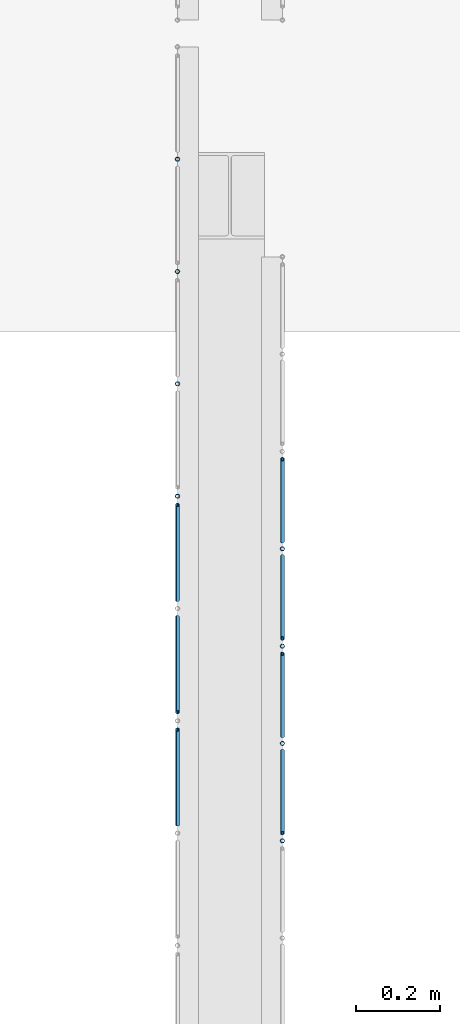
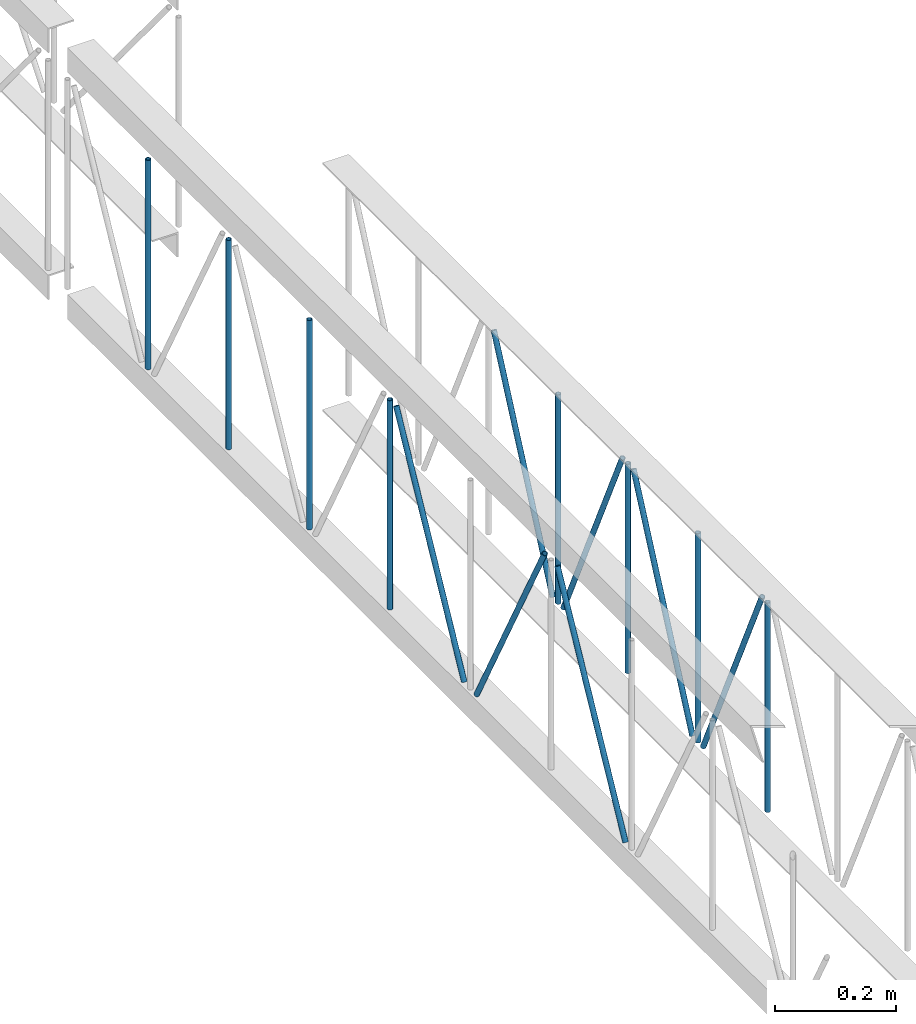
# One storey, part 16 of 153: 15 members, 2 elements without a shape of their own.
"""IFC4 building model written with IfcOpenShell, lengths in metres."""

from ifc_helpers import new_model, entity, si_unit, converted_unit, derived_unit, direction, frame, origin, place, context, subcontext, project, spatial, arc, indexed_curve, outline, extrude, source, transform, mapped, material, type_object, type_shapes, element, aggregate, save


model = new_model("IFC4")

# Units and contexts
model_context = context("Model", 3, precision=1e-05, world=origin(), true_north=direction((6.123031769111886e-17, 1.0)))
body_context = subcontext(model_context, "Body", "Model", "MODEL_VIEW")
ifc_project = project(units=[si_unit("LENGTHUNIT", "METRE"), si_unit("AREAUNIT", "SQUARE_METRE"), si_unit("VOLUMEUNIT", "CUBIC_METRE"), converted_unit("PLANEANGLEUNIT", "DEGREE", entity("IfcRatioMeasure", 0.017453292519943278), si_unit("PLANEANGLEUNIT", "RADIAN"), dimensions=[0, 0, 0, 0, 0, 0, 0]), si_unit("MASSUNIT", "GRAM", prefix="KILO"), derived_unit("MASSDENSITYUNIT", [(si_unit("MASSUNIT", "GRAM", prefix="KILO"), 1), (si_unit("LENGTHUNIT", "METRE"), -3)]), derived_unit("MOMENTOFINERTIAUNIT", [(si_unit("LENGTHUNIT", "METRE"), 4)]), si_unit("TIMEUNIT", "SECOND"), si_unit("FREQUENCYUNIT", "HERTZ"), si_unit("THERMODYNAMICTEMPERATUREUNIT", "DEGREE_CELSIUS"), derived_unit("THERMALTRANSMITTANCEUNIT", [(si_unit("MASSUNIT", "GRAM", prefix="KILO"), 1), (si_unit("THERMODYNAMICTEMPERATUREUNIT", "KELVIN"), -1), (si_unit("TIMEUNIT", "SECOND"), -3)]), derived_unit("VOLUMETRICFLOWRATEUNIT", [(si_unit("LENGTHUNIT", "METRE"), 3), (si_unit("TIMEUNIT", "SECOND"), -1)]), derived_unit("MASSFLOWRATEUNIT", [(si_unit("MASSUNIT", "GRAM", prefix="KILO"), 1), (si_unit("TIMEUNIT", "SECOND"), -1)]), derived_unit("ROTATIONALFREQUENCYUNIT", [(si_unit("TIMEUNIT", "SECOND"), -1)]), si_unit("ELECTRICCURRENTUNIT", "AMPERE"), si_unit("ELECTRICVOLTAGEUNIT", "VOLT"), si_unit("POWERUNIT", "WATT"), si_unit("FORCEUNIT", "NEWTON", prefix="KILO"), si_unit("ILLUMINANCEUNIT", "LUX"), si_unit("LUMINOUSFLUXUNIT", "LUMEN"), si_unit("LUMINOUSINTENSITYUNIT", "CANDELA"), derived_unit("USERDEFINED", [(si_unit("MASSUNIT", "GRAM", prefix="KILO"), -1), (si_unit("LENGTHUNIT", "METRE"), -2), (si_unit("TIMEUNIT", "SECOND"), 3), (si_unit("LUMINOUSFLUXUNIT", "LUMEN"), 1)]), derived_unit("SOUNDPOWERUNIT", [(si_unit("MASSUNIT", "GRAM", prefix="KILO"), 1), (si_unit("LENGTHUNIT", "METRE"), 2), (si_unit("TIMEUNIT", "SECOND"), -3)]), derived_unit("SOUNDPRESSUREUNIT", [(si_unit("MASSUNIT", "GRAM", prefix="KILO"), 1), (si_unit("LENGTHUNIT", "METRE"), -1), (si_unit("TIMEUNIT", "SECOND"), -2)]), derived_unit("LINEARVELOCITYUNIT", [(si_unit("LENGTHUNIT", "METRE"), 1), (si_unit("TIMEUNIT", "SECOND"), -1)]), si_unit("PRESSUREUNIT", "PASCAL"), derived_unit("USERDEFINED", [(si_unit("LENGTHUNIT", "METRE"), -2), (si_unit("MASSUNIT", "GRAM", prefix="KILO"), 1), (si_unit("TIMEUNIT", "SECOND"), -2)]), derived_unit("LINEARFORCEUNIT", [(si_unit("MASSUNIT", "GRAM", prefix="KILO"), 1), (si_unit("LENGTHUNIT", "METRE"), 1), (si_unit("TIMEUNIT", "SECOND"), -2), (si_unit("LENGTHUNIT", "METRE"), -1)]), derived_unit("PLANARFORCEUNIT", [(si_unit("MASSUNIT", "GRAM", prefix="KILO"), 1), (si_unit("LENGTHUNIT", "METRE"), 1), (si_unit("TIMEUNIT", "SECOND"), -2), (si_unit("LENGTHUNIT", "METRE"), -2)])], contexts=[model_context])

# Site, building, storey
site_placement = place(None, origin())
site = spatial("IfcSite", under=ifc_project, at=site_placement, Name="Superficie", CompositionType="ELEMENT")
building_placement = place(site_placement, origin())
building = spatial("IfcBuilding", under=site, at=building_placement, CompositionType="ELEMENT")
storey_placement = place(building_placement, frame((0.0, 0.0, 3.5999999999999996)))
storey = spatial("IfcBuildingStorey", under=building, at=storey_placement, Name="Nivel 1", CompositionType="ELEMENT", Elevation=3.5999999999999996)

# Assembly, members
assembly_1_placement = place(storey_placement, origin())
assembly_1 = element("IfcElementAssembly", 1, at=assembly_1_placement, inside=storey, Name="Viga de celosia 13:Viga de celosia 13", ObjectType="Viga de celosia 13:Viga de celosia 13", AssemblyPlace="NOTDEFINED", PredefinedType="TRUSS")
ifc_material = material(Name="Metal - Calibre delgado", Category="Metal")
member_type_1 = type_object("IfcMemberType", Name="HSS-Tubo estructural redondo:HSS 0.01", PredefinedType="BRACE", material=ifc_material)
shared_shape_1 = source(origin(), body_context, "Body", "SweptSolid", [
    extrude(outline(indexed_curve([(-0.005000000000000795, 7.502054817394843e-18), (-9.800269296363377e-18, -0.005000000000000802), (0.005000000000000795, -7.502054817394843e-18), (8.07772287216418e-18, 0.005000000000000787)], segments=[arc(1, 2, 3), arc(3, 4, 1)], self_intersect=False), holes=[indexed_curve([(0.003999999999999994, 7.222511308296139e-17), (6.910645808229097e-17, -0.004000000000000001), (-0.003999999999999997, -1.8650054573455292e-17), (-2.9156497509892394e-17, 0.003999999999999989)], segments=[arc(1, 2, 3), arc(3, 4, 1)], self_intersect=False)]), frame((-0.21200000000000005, 0.0, 0.0), z_axis=(1.0, 0.0, 0.0), x_axis=(0.0, 1.0, 0.0)), (0.0, 0.0, 1.0), 0.4240000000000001),
])
type_shapes(member_type_1, [shared_shape_1])
member_1_placement = place(assembly_1_placement, frame((-18.703200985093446, -10.268502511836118, 0.25), z_axis=(0.0, 1.0, 0.0), x_axis=(0.0, 0.0, 1.0)))
member_1 = element("IfcMember", 2, at=member_1_placement, type_object=member_type_1, material=ifc_material, Name="HSS-Tubo estructural redondo:HSS 0.01", ObjectType="HSS-Tubo estructural redondo:HSS 0.01", PredefinedType="BRACE", context=body_context, shape_type="MappedRepresentation", body=[
    mapped(shared_shape_1, transform((0.0, 0.0, 0.0), scale=1.0)),
])
member_2_placement = place(assembly_1_placement, frame((-18.703200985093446, -10.001002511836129, 0.25), z_axis=(0.0, 1.0, 0.0), x_axis=(0.0, 0.0, 1.0)))
member_2 = element("IfcMember", 3, at=member_2_placement, type_object=member_type_1, material=ifc_material, Name="HSS-Tubo estructural redondo:HSS 0.01", ObjectType="HSS-Tubo estructural redondo:HSS 0.01", PredefinedType="BRACE", context=body_context, shape_type="MappedRepresentation", body=[
    mapped(shared_shape_1, transform((0.0, 0.0, 0.0), scale=1.0)),
])
member_3_placement = place(assembly_1_placement, frame((-18.703200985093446, -9.733502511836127, 0.25), z_axis=(0.0, 1.0, 0.0), x_axis=(0.0, 0.0, 1.0)))
member_3 = element("IfcMember", 4, at=member_3_placement, type_object=member_type_1, material=ifc_material, Name="HSS-Tubo estructural redondo:HSS 0.01", ObjectType="HSS-Tubo estructural redondo:HSS 0.01", PredefinedType="BRACE", context=body_context, shape_type="MappedRepresentation", body=[
    mapped(shared_shape_1, transform((0.0, 0.0, 0.0), scale=1.0)),
])
member_4_placement = place(assembly_1_placement, frame((-18.703200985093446, -9.466002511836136, 0.25), z_axis=(0.0, 1.0, 0.0), x_axis=(0.0, 0.0, 1.0)))
member_4 = element("IfcMember", 5, at=member_4_placement, type_object=member_type_1, material=ifc_material, Name="HSS-Tubo estructural redondo:HSS 0.01", ObjectType="HSS-Tubo estructural redondo:HSS 0.01", PredefinedType="BRACE", context=body_context, shape_type="MappedRepresentation", body=[
    mapped(shared_shape_1, transform((0.0, 0.0, 0.0), scale=1.0)),
])

assembly_2_placement = place(storey_placement, origin())
assembly_2 = element("IfcElementAssembly", 6, at=assembly_2_placement, inside=storey, Name="Viga de celosia 13:Viga de celosia 13", ObjectType="Viga de celosia 13:Viga de celosia 13", AssemblyPlace="NOTDEFINED", PredefinedType="TRUSS")
member_type_2 = type_object("IfcMemberType", Name="HSS-Tubo estructural redondo:HSS 0.01", PredefinedType="BRACE", material=ifc_material)
shared_shape_2 = source(origin(), body_context, "Body", "SweptSolid", [
    extrude(outline(indexed_curve([(-0.005000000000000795, 2.0824731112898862e-17), (-2.3122945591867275e-17, -0.005000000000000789), (0.005000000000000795, -2.08247311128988e-17), (2.14003991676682e-17, 0.005000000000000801)], segments=[arc(1, 2, 3), arc(3, 4, 1)], self_intersect=False), holes=[indexed_curve([(0.003999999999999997, -1.3094283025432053e-17), (-1.531427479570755e-18, -0.003999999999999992), (-0.004, 4.0098531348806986e-17), (4.1481388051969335e-17, 0.0039999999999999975)], segments=[arc(1, 2, 3), arc(3, 4, 1)], self_intersect=False)]), frame((-0.21200000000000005, 0.0, 0.0), z_axis=(1.0, 0.0, 0.0), x_axis=(0.0, -1.0, 0.0)), (0.0, 0.0, 1.0), 0.4240000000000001),
])
type_shapes(member_type_2, [shared_shape_2])
member_5_placement = place(assembly_2_placement, frame((-18.453200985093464, -11.089216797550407, 0.25), z_axis=(0.0, 1.0, 0.0), x_axis=(0.0, 0.0, 1.0)))
member_5 = element("IfcMember", 7, at=member_5_placement, type_object=member_type_2, material=ifc_material, Name="HSS-Tubo estructural redondo:HSS 0.01", ObjectType="HSS-Tubo estructural redondo:HSS 0.01", PredefinedType="BRACE", context=body_context, shape_type="MappedRepresentation", body=[
    mapped(shared_shape_2, transform((0.0, 0.0, 0.0), scale=1.0)),
])
member_6_placement = place(assembly_2_placement, frame((-18.453200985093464, -10.857431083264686, 0.25), z_axis=(0.0, 1.0, 0.0), x_axis=(0.0, 0.0, 1.0)))
member_6 = element("IfcMember", 8, at=member_6_placement, type_object=member_type_2, material=ifc_material, Name="HSS-Tubo estructural redondo:HSS 0.01", ObjectType="HSS-Tubo estructural redondo:HSS 0.01", PredefinedType="BRACE", context=body_context, shape_type="MappedRepresentation", body=[
    mapped(shared_shape_2, transform((0.0, 0.0, 0.0), scale=1.0)),
])
member_7_placement = place(assembly_2_placement, frame((-18.453200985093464, -10.625645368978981, 0.25), z_axis=(0.0, 1.0, 0.0), x_axis=(0.0, 0.0, 1.0)))
member_7 = element("IfcMember", 9, at=member_7_placement, type_object=member_type_2, material=ifc_material, Name="HSS-Tubo estructural redondo:HSS 0.01", ObjectType="HSS-Tubo estructural redondo:HSS 0.01", PredefinedType="BRACE", context=body_context, shape_type="MappedRepresentation", body=[
    mapped(shared_shape_2, transform((0.0, 0.0, 0.0), scale=1.0)),
])
member_8_placement = place(assembly_2_placement, frame((-18.453200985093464, -10.393859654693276, 0.25), z_axis=(0.0, 1.0, 0.0), x_axis=(0.0, 0.0, 1.0)))
member_8 = element("IfcMember", 10, at=member_8_placement, type_object=member_type_2, material=ifc_material, Name="HSS-Tubo estructural redondo:HSS 0.01", ObjectType="HSS-Tubo estructural redondo:HSS 0.01", PredefinedType="BRACE", context=body_context, shape_type="MappedRepresentation", body=[
    mapped(shared_shape_2, transform((0.0, 0.0, 0.0), scale=1.0)),
])

# Member
member_type_3 = type_object("IfcMemberType", Name="HSS-Tubo estructural redondo:HSS 0.01", PredefinedType="BRACE", material=ifc_material)
shared_shape_3 = source(origin(), body_context, "Body", "SweptSolid", [
    extrude(outline(indexed_curve([(-0.005000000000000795, 7.502054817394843e-18), (-9.800269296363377e-18, -0.005000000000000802), (0.005000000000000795, -7.502054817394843e-18), (8.07772287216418e-18, 0.005000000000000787)], segments=[arc(1, 2, 3), arc(3, 4, 1)], self_intersect=False), holes=[indexed_curve([(0.003999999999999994, 7.222511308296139e-17), (6.910645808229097e-17, -0.004000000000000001), (-0.003999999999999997, -1.8650054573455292e-17), (-2.9156497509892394e-17, 0.003999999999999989)], segments=[arc(1, 2, 3), arc(3, 4, 1)], self_intersect=False)]), frame((-0.23950000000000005, 0.0, 0.0), z_axis=(1.0, 0.0, 0.0), x_axis=(0.0, 1.0, 0.0)), (0.0, 0.0, 1.0), 0.4790000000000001),
])
type_shapes(member_type_3, [shared_shape_3])
member_9_placement = place(assembly_1_placement, frame((-18.703200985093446, -10.937252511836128, 0.2500000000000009), z_axis=(0.0, 0.8817419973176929, -0.4717319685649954), x_axis=(0.0, 0.4717319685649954, 0.8817419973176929)))
member_9 = element("IfcMember", 11, at=member_9_placement, type_object=member_type_3, material=ifc_material, Name="HSS-Tubo estructural redondo:HSS 0.01", ObjectType="HSS-Tubo estructural redondo:HSS 0.01", PredefinedType="BRACE", context=body_context, shape_type="MappedRepresentation", body=[
    mapped(shared_shape_3, transform((0.0, 0.0, 0.0), scale=1.0)),
])

member_10_placement = place(assembly_1_placement, frame((-18.703200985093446, -10.669752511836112, 0.25), z_axis=(0.0, -0.8817419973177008, -0.4717319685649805), x_axis=(0.0, 0.4717319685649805, -0.8817419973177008)))
member_10 = element("IfcMember", 12, at=member_10_placement, type_object=member_type_3, material=ifc_material, Name="HSS-Tubo estructural redondo:HSS 0.01", ObjectType="HSS-Tubo estructural redondo:HSS 0.01", PredefinedType="BRACE", context=body_context, shape_type="MappedRepresentation", body=[
    mapped(shared_shape_3, transform((0.0, 0.0, 0.0), scale=1.0)),
])

member_11_placement = place(assembly_1_placement, frame((-18.703200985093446, -10.402252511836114, 0.25), z_axis=(0.0, 0.8817419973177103, -0.47173196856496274), x_axis=(0.0, 0.47173196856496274, 0.8817419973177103)))
member_11 = element("IfcMember", 13, at=member_11_placement, type_object=member_type_3, material=ifc_material, Name="HSS-Tubo estructural redondo:HSS 0.01", ObjectType="HSS-Tubo estructural redondo:HSS 0.01", PredefinedType="BRACE", context=body_context, shape_type="MappedRepresentation", body=[
    mapped(shared_shape_3, transform((0.0, 0.0, 0.0), scale=1.0)),
])

aggregate(assembly_1, [member_1, member_2, member_3, member_4, member_9, member_10, member_11])

member_type_4 = type_object("IfcMemberType", Name="HSS-Tubo estructural redondo:HSS 0.01", PredefinedType="BRACE", material=ifc_material)
shared_shape_4 = source(origin(), body_context, "Body", "SweptSolid", [
    extrude(outline(indexed_curve([(-0.005000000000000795, 2.0824731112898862e-17), (-2.3122945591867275e-17, -0.005000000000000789), (0.005000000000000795, -2.08247311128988e-17), (2.14003991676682e-17, 0.005000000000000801)], segments=[arc(1, 2, 3), arc(3, 4, 1)], self_intersect=False), holes=[indexed_curve([(0.003999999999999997, -1.3094283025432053e-17), (-1.531427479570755e-18, -0.003999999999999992), (-0.004, 4.0098531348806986e-17), (4.1481388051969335e-17, 0.0039999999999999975)], segments=[arc(1, 2, 3), arc(3, 4, 1)], self_intersect=False)]), frame((-0.2325, 0.0, 0.0), z_axis=(1.0, 0.0, 0.0), x_axis=(0.0, -1.0, 0.0)), (0.0, 0.0, 1.0), 0.465),
])
type_shapes(member_type_4, [shared_shape_4])
member_12_placement = place(assembly_2_placement, frame((-18.453200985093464, -10.973323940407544, 0.25), z_axis=(0.0, -0.9072563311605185, -0.4205781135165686), x_axis=(0.0, 0.4205781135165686, -0.9072563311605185)))
member_12 = element("IfcMember", 14, at=member_12_placement, type_object=member_type_4, material=ifc_material, Name="HSS-Tubo estructural redondo:HSS 0.01", ObjectType="HSS-Tubo estructural redondo:HSS 0.01", PredefinedType="BRACE", context=body_context, shape_type="MappedRepresentation", body=[
    mapped(shared_shape_4, transform((0.0, 0.0, 0.0), scale=1.0)),
])

member_13_placement = place(assembly_2_placement, frame((-18.453200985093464, -10.741538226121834, 0.25000000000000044), z_axis=(0.0, 0.9072563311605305, -0.42057811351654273), x_axis=(0.0, 0.42057811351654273, 0.9072563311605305)))
member_13 = element("IfcMember", 15, at=member_13_placement, type_object=member_type_4, material=ifc_material, Name="HSS-Tubo estructural redondo:HSS 0.01", ObjectType="HSS-Tubo estructural redondo:HSS 0.01", PredefinedType="BRACE", context=body_context, shape_type="MappedRepresentation", body=[
    mapped(shared_shape_4, transform((0.0, 0.0, 0.0), scale=1.0)),
])

member_14_placement = place(assembly_2_placement, frame((-18.453200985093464, -10.50975251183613, 0.25), z_axis=(0.0, -0.9072563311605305, -0.42057811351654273), x_axis=(0.0, 0.42057811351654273, -0.9072563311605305)))
member_14 = element("IfcMember", 16, at=member_14_placement, type_object=member_type_4, material=ifc_material, Name="HSS-Tubo estructural redondo:HSS 0.01", ObjectType="HSS-Tubo estructural redondo:HSS 0.01", PredefinedType="BRACE", context=body_context, shape_type="MappedRepresentation", body=[
    mapped(shared_shape_4, transform((0.0, 0.0, 0.0), scale=1.0)),
])

member_15_placement = place(assembly_2_placement, frame((-18.453200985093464, -10.277966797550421, 0.25), z_axis=(0.0, 0.907256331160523, -0.4205781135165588), x_axis=(0.0, 0.4205781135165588, 0.907256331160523)))
member_15 = element("IfcMember", 17, at=member_15_placement, type_object=member_type_4, material=ifc_material, Name="HSS-Tubo estructural redondo:HSS 0.01", ObjectType="HSS-Tubo estructural redondo:HSS 0.01", PredefinedType="BRACE", context=body_context, shape_type="MappedRepresentation", body=[
    mapped(shared_shape_4, transform((0.0, 0.0, 0.0), scale=1.0)),
])

aggregate(assembly_2, [member_5, member_6, member_7, member_8, member_12, member_13, member_14, member_15])

save(model, "model.ifc")
